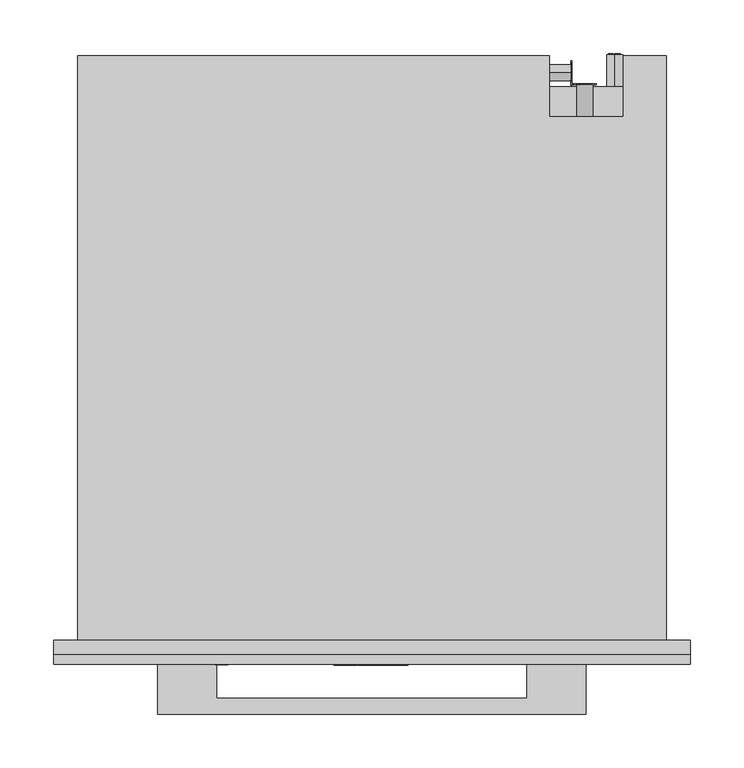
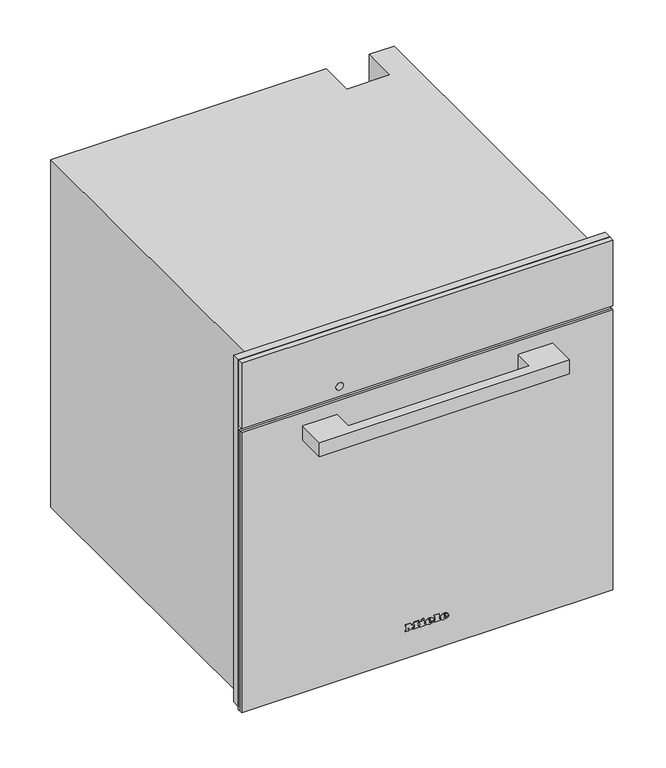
"""IFC4 building model written with IfcOpenShell, lengths in millimetres: proxy geometry, 12091920_NER_DGC7865HCPro_GRGR : 23786539_NER_12091920_DGC7865HCPro_GRGR."""

from ifc_helpers import new_model, si_unit, point, frame, frame_2d, origin, place, context, project, spatial, polyline, circle_curve, ellipse_curve, trimmed, segment, composite_curve, outline, extrude, faceted_brep, source, transform, mapped, element, save
from ifc_brep_helpers import plane_surface, cylinder_surface, revolved_surface, extruded_surface, advanced_brep


def specialty_equipment_4556620d(model_context):
    return source(origin(), model_context, "Body", "SolidModel", [
        extrude(outline(polyline([(596.0, 297.5), (596.0, -297.5), (9.0, -297.5), (9.0, 297.5), (596.0, 297.5)]), holes=[polyline([(485.0, -272.5), (485.0, 272.5), (27.0, 272.5), (27.0, -272.5), (485.0, -272.5)])]), frame((0.0, -13.0, 0.0), z_axis=(0.0, 1.0, 0.0), x_axis=(0.0, 0.0, 1.0)), (0.0, 0.0, 1.0), 13.0),
        extrude(outline(polyline([(523.0, 196.9217896), (523.0, 198.4267862), (533.0435673, 201.1942402), (533.0435673, 199.9014806), (524.4295103, 197.7797951), (533.0470645, 195.3087512), (533.0470645, 193.4373937), (524.4121052, 190.9191482), (533.0472266, 188.8443938), (533.0472266, 187.5376524), (523.0, 190.2769667), (523.0, 191.6257455), (531.8347238, 194.3884733), (523.0, 196.9217896)])), frame((0.0, 519.0, 0.0), z_axis=(0.0, 1.0, 0.0), x_axis=(0.0, 0.0, 1.0)), (0.0, 0.0, 1.0), 1.0),
        extrude(outline(polyline([(533.0468463, 209.521488), (533.0468463, 208.2566067), (528.129594, 208.2566067), (533.0474898, 203.1074328), (533.0474898, 201.3597489), (528.9313111, 205.6695027), (523.0, 201.1858157), (523.0, 202.7358731), (528.0700777, 206.5685235), (526.4282746, 208.2823622), (523.0, 208.2823622), (523.0, 209.521488), (533.0468463, 209.521488)])), frame((0.0, 519.0, 0.0), z_axis=(0.0, 1.0, 0.0), x_axis=(0.0, 0.0, 1.0)), (0.0, 0.0, 1.0), 1.0),
        extrude(outline(polyline([(518.3136153, 20.0), (522.323529, 30.045631), (523.3928394, 30.045631), (527.4027531, 20.0), (526.0759254, 20.0), (524.925681, 23.1392597), (520.7882348, 23.1392597), (519.640443, 20.0), (518.3136153, 20.0)]), holes=[polyline([(521.2493136, 24.3949636), (524.4670548, 24.3949636), (523.5620651, 26.864678), (522.8581842, 28.7899271), (522.2327848, 27.0805021), (521.2493136, 24.3949636)])]), frame((186.0, 0.0, 0.0), z_axis=(1.0, 0.0, 0.0), x_axis=(0.0, 1.0, 0.0)), (0.0, 0.0, 1.0), 1.0),
        extrude(outline(polyline([(530.5420128, 20.0), (527.8025182, 30.045631), (529.0974628, 30.045631), (530.6867131, 23.4433755), (531.1772224, 21.4053092), (531.7020674, 23.207931), (533.6935352, 30.045631), (535.5599232, 30.045631), (537.0069257, 25.0890343), (538.0835937, 21.4053092), (538.5593878, 23.3845144), (540.1633533, 30.045631), (541.4582979, 30.045631), (538.7163507, 20.0), (537.3748077, 20.0), (534.9664069, 27.7500474), (534.630408, 28.8316204), (534.2527159, 27.5293182), (532.0576866, 20.0), (530.5420128, 20.0)])), frame((186.0, 0.0, 0.0), z_axis=(1.0, 0.0, 0.0), x_axis=(0.0, 1.0, 0.0)), (0.0, 0.0, 1.0), 1.0),
        advanced_brep(
        [(227.0, 547.0, 396.5), (227.0, 547.0, 381.5), (221.4098301, 547.0, 384.0), (225.5, 547.0, 384.0), (225.5, 547.0, 394.0), (224.4955303, 547.0, 394.0), (224.4955303, 547.0, 385.0), (221.0315043, 547.0, 385.0), (221.0315043, 547.0, 384.4582978), (232.0, 547.0, 384.0), (232.0, 547.0, 394.0), (227.0, 547.0, 394.0), (227.0, 547.0, 393.0), (231.0, 547.0, 393.0), (231.0, 547.0, 389.5), (228.0, 547.0, 389.5), (228.0, 547.0, 388.5), (231.0, 547.0, 388.5), (231.0, 547.0, 385.0), (227.0, 547.0, 385.0), (227.0, 547.0, 384.0), (227.0, 517.0, 381.5), (227.0, 517.0, 396.5), (232.0, 548.0, 394.0), (232.0, 548.0, 384.0), (227.0, 548.0, 384.0), (227.0, 548.0, 385.0), (231.0, 548.0, 385.0), (231.0, 548.0, 388.5), (228.0, 548.0, 388.5), (228.0, 548.0, 389.5), (231.0, 548.0, 389.5), (231.0, 548.0, 393.0), (227.0, 548.0, 393.0), (227.0, 548.0, 394.0), (225.5, 548.0, 384.0), (221.0315043, 548.0, 384.0), (221.0315043, 548.0, 385.0), (224.4955303, 548.0, 385.0), (224.4955303, 548.0, 394.0), (225.5, 548.0, 394.0), (221.0315043, 547.0, 384.0)],
        [
            (0, 1, circle_curve(frame((227.0, 547.0, 389.0), z_axis=(0.0, 1.0, 0.0), x_axis=(0.0, 0.0, 1.0)), 7.5)),
            (1, 2, circle_curve(frame((227.0, 547.0, 389.0), z_axis=(0.0, 1.0, 0.0), x_axis=(0.0, 0.0, 1.0)), 7.5)),
            (2, 3),
            (3, 4),
            (4, 5),
            (5, 6),
            (6, 7),
            (7, 8),
            (8, 0, circle_curve(frame((227.0, 547.0, 389.0), z_axis=(0.0, 1.0, 0.0), x_axis=(0.0, 0.0, 1.0)), 7.5)),
            (9, 10),
            (10, 11),
            (11, 12),
            (12, 13),
            (13, 14),
            (14, 15),
            (15, 16),
            (16, 17),
            (17, 18),
            (18, 19),
            (19, 20),
            (20, 9),
            (21, 22, circle_curve(frame((227.0, 517.0, 389.0), z_axis=(0.0, -1.0, 0.0), x_axis=(0.0, 0.0, 1.0)), 7.5)),
            (22, 21, circle_curve(frame((227.0, 517.0, 389.0), z_axis=(0.0, -1.0, 0.0), x_axis=(0.0, 0.0, 1.0)), 7.5)),
            (0, 22),
            (21, 1),
            (8, 2, circle_curve(frame((227.0, 547.0, 389.0), z_axis=(0.0, -1.0, 0.0), x_axis=(0.0, 0.0, 1.0)), 7.5)),
            (23, 24),
            (24, 25),
            (25, 26),
            (26, 27),
            (27, 28),
            (28, 29),
            (29, 30),
            (30, 31),
            (31, 32),
            (32, 33),
            (33, 34),
            (34, 23),
            (35, 36),
            (36, 37),
            (37, 38),
            (38, 39),
            (39, 40),
            (40, 35),
            (8, 41),
            (41, 2),
            (23, 10),
            (9, 24),
            (20, 25),
            (19, 26),
            (18, 27),
            (17, 28),
            (16, 29),
            (15, 30),
            (14, 31),
            (13, 32),
            (12, 33),
            (11, 34),
            (35, 3),
            (41, 36),
            (7, 37),
            (6, 38),
            (5, 39),
            (4, 40),
        ],
        [
            plane_surface(frame((227.0, 547.0, 396.5), z_axis=(0.0, 1.0, 0.0), x_axis=(1.0, 0.0, 0.0))),
            plane_surface(frame((227.0, 517.0, 396.5), z_axis=(0.0, -1.0, 0.0), x_axis=(-1.0, 0.0, 0.0))),
            cylinder_surface(frame((227.0, 547.0, 389.0), z_axis=(0.0, -1.0, 0.0), x_axis=(0.0, 0.0, 1.0)), 7.5),
            plane_surface(frame((232.0, 548.0, 394.0), z_axis=(0.0, 1.0, 0.0), x_axis=(0.0, 0.0, -1.0))),
            plane_surface(frame((232.0, 547.0, 394.0), z_axis=(0.0, -1.0, 0.0), x_axis=(0.0, 0.0, 1.0))),
            plane_surface(frame((232.0, 548.0, 394.0), z_axis=(1.0, 0.0, 0.0), x_axis=(0.0, -1.0, 0.0))),
            plane_surface(frame((232.0, 548.0, 384.0), z_axis=(0.0, 0.0, -1.0), x_axis=(0.0, -1.0, 0.0))),
            plane_surface(frame((227.0, 548.0, 384.0), z_axis=(-1.0, 0.0, 0.0), x_axis=(0.0, -1.0, 0.0))),
            plane_surface(frame((227.0, 548.0, 385.0), z_axis=(0.0, 0.0, 1.0), x_axis=(0.0, -1.0, 0.0))),
            plane_surface(frame((231.0, 548.0, 385.0), z_axis=(-1.0, 0.0, 0.0), x_axis=(0.0, -1.0, 0.0))),
            plane_surface(frame((231.0, 548.0, 388.5), z_axis=(0.0, 0.0, -1.0), x_axis=(0.0, -1.0, 0.0))),
            plane_surface(frame((228.0, 548.0, 388.5), z_axis=(-1.0, 0.0, 0.0), x_axis=(0.0, -1.0, 0.0))),
            plane_surface(frame((228.0, 548.0, 389.5), z_axis=(0.0, 0.0, 1.0), x_axis=(0.0, -1.0, 0.0))),
            plane_surface(frame((231.0, 548.0, 389.5), z_axis=(-1.0, 0.0, 0.0), x_axis=(0.0, -1.0, 0.0))),
            plane_surface(frame((231.0, 548.0, 393.0), z_axis=(0.0, 0.0, -1.0), x_axis=(0.0, -1.0, 0.0))),
            plane_surface(frame((227.0, 548.0, 393.0), z_axis=(-1.0, 0.0, 0.0), x_axis=(0.0, -1.0, 0.0))),
            plane_surface(frame((227.0, 548.0, 394.0), z_axis=(0.0, 0.0, 1.0), x_axis=(0.0, -1.0, 0.0))),
            plane_surface(frame((225.5, 548.0, 384.0), z_axis=(0.0, 0.0, -1.0), x_axis=(0.0, -1.0, 0.0))),
            plane_surface(frame((221.0315043, 548.0, 384.0), z_axis=(-1.0, 0.0, 0.0), x_axis=(0.0, -1.0, 0.0))),
            plane_surface(frame((221.0315043, 548.0, 385.0), z_axis=(0.0, 0.0, 1.0), x_axis=(0.0, -1.0, 0.0))),
            plane_surface(frame((224.4955303, 548.0, 385.0), z_axis=(-1.0, 0.0, 0.0), x_axis=(0.0, -1.0, 0.0))),
            plane_surface(frame((224.4955303, 548.0, 394.0), z_axis=(0.0, 0.0, 1.0), x_axis=(0.0, -1.0, 0.0))),
            plane_surface(frame((225.5, 548.0, 394.0), z_axis=(1.0, 0.0, 0.0), x_axis=(0.0, -1.0, 0.0))),
        ],
        [
            (0, [[1, 2, 3, 4, 5, 6, 7, 8, 9], [10, 11, 12, 13, 14, 15, 16, 17, 18, 19, 20, 21]]),
            (1, [[22, 23]]),
            (2, [[-1, 24, -22, 25]]),
            (2, [[-23, -24, -9, 26, -2, -25]]),
            (3, [[27, 28, 29, 30, 31, 32, 33, 34, 35, 36, 37, 38]]),
            (3, [[39, 40, 41, 42, 43, 44]]),
            (4, [[45, 46, -26]]),
            (5, [[-27, 47, -10, 48]]),
            (6, [[-28, -48, -21, 49]]),
            (7, [[-29, -49, -20, 50]]),
            (8, [[-30, -50, -19, 51]]),
            (9, [[-31, -51, -18, 52]]),
            (10, [[-32, -52, -17, 53]]),
            (11, [[-33, -53, -16, 54]]),
            (12, [[-34, -54, -15, 55]]),
            (13, [[-35, -55, -14, 56]]),
            (14, [[-36, -56, -13, 57]]),
            (15, [[-37, -57, -12, 58]]),
            (16, [[-38, -58, -11, -47]]),
            (17, [[-39, 59, -3, -46, 60]]),
            (18, [[-40, -60, -45, -8, 61]]),
            (19, [[-41, -61, -7, 62]]),
            (20, [[-42, -62, -6, 63]]),
            (21, [[-43, -63, -5, 64]]),
            (22, [[-44, -64, -4, -59]]),
        ],
    ),
        extrude(outline(composite_curve([segment(trimmed(circle_curve(frame_2d((528.0, 199.0)), 7.5), [point((528.0, 206.5))], [point((528.0, 191.5))], False, "CARTESIAN"), True, "CONTINUOUS"), segment(trimmed(circle_curve(frame_2d((528.0, 199.0)), 7.5), [point((528.0, 191.5))], [point((528.0, 206.5))], False, "CARTESIAN"), True, "CONTINUOUS")], self_intersect=False)), frame((0.0, 489.0, 0.0), z_axis=(0.0, 1.0, 0.0), x_axis=(0.0, 0.0, 1.0)), (0.0, 0.0, 1.0), 30.0),
        extrude(outline(composite_curve([segment(trimmed(circle_curve(frame_2d((530.0, 25.0)), 7.5), [point((530.0, 17.5))], [point((530.0, 32.5))], False, "CARTESIAN"), True, "CONTINUOUS"), segment(trimmed(circle_curve(frame_2d((530.0, 25.0)), 7.5), [point((530.0, 32.5))], [point((530.0, 17.5))], False, "CARTESIAN"), True, "CONTINUOUS")], self_intersect=False)), frame((166.0, 0.0, 0.0), z_axis=(1.0, 0.0, 0.0), x_axis=(0.0, 1.0, 0.0)), (0.0, 0.0, 1.0), 20.0),
        faceted_brep([(-275.0, 546.0, 0.0), (-275.0, 546.0, 588.0), (166.0, 546.0, 588.0), (166.0, 546.0, 0.0), (235.0, 546.0, 588.0), (275.0, 546.0, 588.0), (275.0, 546.0, 478.0), (235.0, 546.0, 478.0), (275.0, 0.0, 588.0), (-275.0, 0.0, 588.0), (-275.0, 0.0, 0.0), (275.0, 0.0, 0.0), (-272.5, 0.0, 485.0), (272.5, 0.0, 485.0), (272.5, 0.0, 27.0), (-272.5, 0.0, 27.0), (235.0, 489.0, 588.0), (166.0, 489.0, 588.0), (166.0, 517.0, 0.0), (275.0, 517.0, 0.0), (275.0, 517.0, 478.0), (272.5, 17.0, 485.0), (-272.5, 17.0, 485.0), (-272.5, 17.0, 27.0), (272.5, 17.0, 27.0), (231.0, 17.0, 409.0), (231.0, 17.0, 61.0), (-231.0, 17.0, 61.0), (-231.0, 17.0, 409.0), (231.0, 411.0, 409.0), (-231.0, 411.0, 409.0), (-231.0, 411.0, 61.0), (231.0, 411.0, 61.0), (235.0, 489.0, 477.0), (166.0, 489.0, 477.0), (166.0, 517.0, 477.0), (235.0, 517.0, 477.0), (235.0, 517.0, 478.0)], [[[0, 1, 2, 3]], [[4, 5, 6, 7]], [[8, 9, 10, 11], [12, 13, 14, 15]], [[9, 8, 5, 4, 16, 17, 2, 1]], [[1, 0, 10, 9]], [[11, 10, 0, 3, 18, 19]], [[8, 11, 19, 20, 6, 5]], [[21, 22, 23, 24], [25, 26, 27, 28]], [[22, 21, 13, 12]], [[23, 22, 12, 15]], [[24, 23, 15, 14]], [[21, 24, 14, 13]], [[29, 30, 31, 32]], [[29, 32, 26, 25]], [[32, 31, 27, 26]], [[31, 30, 28, 27]], [[30, 29, 25, 28]], [[16, 33, 34, 17]], [[17, 34, 35, 18, 3, 2]], [[34, 33, 36, 35]], [[33, 16, 4, 7, 37, 36]], [[37, 20, 19, 18, 35, 36]], [[20, 37, 7, 6]]]),
        advanced_brep(
        [(26.2998, -23.0, 52.7018), (26.2998, -23.0, 53.8532), (33.9264, -23.0, 53.8532), (20.6568, -23.0, 53.8532), (23.7918, -23.0, 50.0), (33.7326, -23.0, 52.7018), (30.2898, -23.0, 52.7018), (27.5766, -23.0, 51.425), (26.2998, -23.0, 55.3124), (26.2998, -23.0, 56.555), (28.2492, -23.0, 56.555), (28.2492, -23.0, 55.3124), (26.2998, -22.0, 52.7018), (27.5766, -22.0, 51.425), (30.2898, -22.0, 52.7018), (33.7326, -22.0, 52.7018), (23.7918, -22.0, 50.0), (20.6568, -22.0, 53.8532), (33.9264, -22.0, 53.8532), (26.2998, -22.0, 53.8532), (26.2998, -22.0, 55.3124), (28.2492, -22.0, 55.3124), (28.2492, -22.0, 56.555), (26.2998, -22.0, 56.555)],
        [
            (0, 1),
            (1, 2),
            (2, 3, ellipse_curve(frame((27.2916, -23.0, 53.8532), z_axis=(0.0, -1.0, 0.0), x_axis=(-1.0, 0.0, 0.0)), 6.6348, 5.4834)),
            (3, 4, circle_curve(frame((25.0686622, -23.0, 54.2408), z_axis=(0.0, -1.0, 0.0), x_axis=(0.0, 0.0, -1.0)), 4.4288556)),
            (4, 5, circle_curve(frame((27.1587808, -23.0, 57.2504), z_axis=(0.0, -1.0, 0.0), x_axis=(0.0, 0.0, -1.0)), 7.9940516)),
            (5, 6),
            (6, 7, circle_curve(frame((28.1338588, -23.0, 53.762), z_axis=(0.0, 1.0, 0.0), x_axis=(0.0, 0.0, -1.0)), 2.4025208)),
            (7, 0, circle_curve(frame((27.5766, -23.0, 52.7018), z_axis=(0.0, 1.0, 0.0), x_axis=(0.0, 0.0, -1.0)), 1.2768)),
            (8, 9),
            (9, 10, circle_curve(frame((27.2745, -23.0, 56.555), z_axis=(0.0, 1.0, 0.0), x_axis=(0.0, 0.0, -1.0)), 0.9747)),
            (10, 11),
            (11, 8),
            (12, 13, circle_curve(frame((27.5766, -22.0, 52.7018), z_axis=(0.0, -1.0, 0.0), x_axis=(0.0, 0.0, -1.0)), 1.2768)),
            (13, 14, circle_curve(frame((28.1338588, -22.0, 53.762), z_axis=(0.0, -1.0, 0.0), x_axis=(0.0, 0.0, -1.0)), 2.4025208)),
            (14, 15),
            (15, 16, circle_curve(frame((27.1587808, -22.0, 57.2504), z_axis=(0.0, 1.0, 0.0), x_axis=(0.0, 0.0, -1.0)), 7.9940516)),
            (16, 17, circle_curve(frame((25.0686622, -22.0, 54.2408), z_axis=(0.0, 1.0, 0.0), x_axis=(0.0, 0.0, -1.0)), 4.4288556)),
            (17, 18, ellipse_curve(frame((27.2916, -22.0, 53.8532), z_axis=(0.0, 1.0, 0.0), x_axis=(-1.0, 0.0, 0.0)), 6.6348, 5.4834)),
            (18, 19),
            (19, 12),
            (20, 21),
            (21, 22),
            (22, 23, circle_curve(frame((27.2745, -22.0, 56.555), z_axis=(0.0, -1.0, 0.0), x_axis=(0.0, 0.0, -1.0)), 0.9747)),
            (23, 20),
            (0, 12),
            (19, 1),
            (18, 2),
            (5, 15),
            (14, 6),
            (17, 3),
            (13, 7),
            (16, 4),
            (8, 20),
            (23, 9),
            (22, 10),
            (21, 11),
        ],
        [
            plane_surface(frame((26.2998, -23.0, 53.8532), z_axis=(0.0, -1.0, 0.0), x_axis=(0.0, 0.0, 1.0))),
            plane_surface(frame((26.2998, -22.0, 53.8532), z_axis=(0.0, 1.0, 0.0), x_axis=(0.0, 0.0, -1.0))),
            plane_surface(frame((26.2998, -23.0, 52.7018), z_axis=(1.0, 0.0, 0.0), x_axis=(0.0, 1.0, 0.0))),
            plane_surface(frame((26.2998, -23.0, 53.8532), z_axis=(0.0, 0.0, -1.0), x_axis=(0.0, 1.0, 0.0))),
            plane_surface(frame((33.7326, -23.0, 52.7018), z_axis=(0.0, 0.0, 1.0), x_axis=(0.0, 1.0, 0.0))),
            extruded_surface(trimmed(ellipse_curve(frame((27.2916, -21.0, 53.8532), z_axis=(0.0, -1.0, 0.0), x_axis=(-1.0, 0.0, 0.0)), 6.6348, 5.4834), [point((33.9264, -21.0, 53.8532))], [point((20.6568, -21.0, 53.8532))], True, "CARTESIAN"), (0.0, -1.0, 0.0), 1.0),
            revolved_surface(polyline([(28.1338588, -22.0, 51.3594792), (28.1338588, -23.0, 51.3594792)]), (28.1338588, -22.0, 53.762), (0.0, 1.0, 0.0)),
            revolved_surface(polyline([(27.5766, -22.0, 51.425), (27.5766, -23.0, 51.425)]), (27.5766, -22.0, 52.7018), (0.0, 1.0, 0.0)),
            cylinder_surface(frame((25.0686622, -22.0, 54.2408), z_axis=(0.0, -1.0, 0.0), x_axis=(0.0, 0.0, -1.0)), 4.4288556),
            cylinder_surface(frame((27.1587808, -22.0, 57.2504), z_axis=(0.0, -1.0, 0.0), x_axis=(0.0, 0.0, -1.0)), 7.9940516),
            plane_surface(frame((26.2998, -23.0, 55.3124), z_axis=(1.0, 0.0, 0.0), x_axis=(0.0, 1.0, 0.0))),
            revolved_surface(polyline([(27.2745, -22.0, 55.5803), (27.2745, -23.0, 55.5803)]), (27.2745, -22.0, 56.555), (0.0, 1.0, 0.0)),
            plane_surface(frame((28.2492, -23.0, 56.555), z_axis=(-1.0, 0.0, 0.0), x_axis=(0.0, 1.0, 0.0))),
            plane_surface(frame((28.2492, -23.0, 55.3124), z_axis=(0.0, 0.0, 1.0), x_axis=(0.0, 1.0, 0.0))),
        ],
        [
            (0, [[1, 2, 3, 4, 5, 6, 7, 8], [9, 10, 11, 12]]),
            (1, [[13, 14, 15, 16, 17, 18, 19, 20], [21, 22, 23, 24]]),
            (2, [[-1, 25, -20, 26]]),
            (3, [[-2, -26, -19, 27]]),
            (4, [[-6, 28, -15, 29]]),
            (5, [[-3, -27, -18, 30]]),
            (6, [[-7, -29, -14, 31]]),
            (7, [[-8, -31, -13, -25]]),
            (8, [[-4, -30, -17, 32]]),
            (9, [[-5, -32, -16, -28]]),
            (10, [[-9, 33, -24, 34]]),
            (11, [[-10, -34, -23, 35]]),
            (12, [[-11, -35, -22, 36]]),
            (13, [[-12, -36, -21, -33]]),
        ],
    ),
        advanced_brep(
        [(2.508, -23.0, 52.7018), (2.508, -23.0, 53.8532), (10.1346, -23.0, 53.8532), (-3.135, -23.0, 53.8532), (0.0, -23.0, 50.0), (9.9408, -23.0, 52.7018), (6.498, -23.0, 52.7018), (3.7848, -23.0, 51.425), (2.508, -23.0, 55.3124), (2.508, -23.0, 56.555), (4.4574, -23.0, 56.555), (4.4574, -23.0, 55.3124), (2.508, -22.0, 52.7018), (3.7848, -22.0, 51.425), (6.498, -22.0, 52.7018), (9.9408, -22.0, 52.7018), (0.0, -22.0, 50.0), (-3.135, -22.0, 53.8532), (10.1346, -22.0, 53.8532), (2.508, -22.0, 53.8532), (2.508, -22.0, 55.3124), (4.4574, -22.0, 55.3124), (4.4574, -22.0, 56.555), (2.508, -22.0, 56.555)],
        [
            (0, 1),
            (1, 2),
            (2, 3, ellipse_curve(frame((3.4998, -23.0, 53.8532), z_axis=(0.0, -1.0, 0.0), x_axis=(-1.0, 0.0, 0.0)), 6.6348, 5.4834)),
            (3, 4, circle_curve(frame((1.2768622, -23.0, 54.2408), z_axis=(0.0, -1.0, 0.0), x_axis=(0.0, 0.0, -1.0)), 4.4288556)),
            (4, 5, circle_curve(frame((3.3669808, -23.0, 57.2504), z_axis=(0.0, -1.0, 0.0), x_axis=(0.0, 0.0, -1.0)), 7.9940516)),
            (5, 6),
            (6, 7, circle_curve(frame((4.3420588, -23.0, 53.762), z_axis=(0.0, 1.0, 0.0), x_axis=(0.0, 0.0, -1.0)), 2.4025208)),
            (7, 0, circle_curve(frame((3.7848, -23.0, 52.7018), z_axis=(0.0, 1.0, 0.0), x_axis=(0.0, 0.0, -1.0)), 1.2768)),
            (8, 9),
            (9, 10, circle_curve(frame((3.4827, -23.0, 56.555), z_axis=(0.0, 1.0, 0.0), x_axis=(0.0, 0.0, -1.0)), 0.9747)),
            (10, 11),
            (11, 8),
            (12, 13, circle_curve(frame((3.7848, -22.0, 52.7018), z_axis=(0.0, -1.0, 0.0), x_axis=(0.0, 0.0, -1.0)), 1.2768)),
            (13, 14, circle_curve(frame((4.3420588, -22.0, 53.762), z_axis=(0.0, -1.0, 0.0), x_axis=(0.0, 0.0, -1.0)), 2.4025208)),
            (14, 15),
            (15, 16, circle_curve(frame((3.3669808, -22.0, 57.2504), z_axis=(0.0, 1.0, 0.0), x_axis=(0.0, 0.0, -1.0)), 7.9940516)),
            (16, 17, circle_curve(frame((1.2768622, -22.0, 54.2408), z_axis=(0.0, 1.0, 0.0), x_axis=(0.0, 0.0, -1.0)), 4.4288556)),
            (17, 18, ellipse_curve(frame((3.4998, -22.0, 53.8532), z_axis=(0.0, 1.0, 0.0), x_axis=(-1.0, 0.0, 0.0)), 6.6348, 5.4834)),
            (18, 19),
            (19, 12),
            (20, 21),
            (21, 22),
            (22, 23, circle_curve(frame((3.4827, -22.0, 56.555), z_axis=(0.0, -1.0, 0.0), x_axis=(0.0, 0.0, -1.0)), 0.9747)),
            (23, 20),
            (0, 12),
            (19, 1),
            (18, 2),
            (5, 15),
            (14, 6),
            (17, 3),
            (13, 7),
            (16, 4),
            (8, 20),
            (23, 9),
            (22, 10),
            (21, 11),
        ],
        [
            plane_surface(frame((2.508, -23.0, 53.8532), z_axis=(0.0, -1.0, 0.0), x_axis=(0.0, 0.0, 1.0))),
            plane_surface(frame((2.508, -22.0, 53.8532), z_axis=(0.0, 1.0, 0.0), x_axis=(0.0, 0.0, -1.0))),
            plane_surface(frame((2.508, -23.0, 52.7018), z_axis=(1.0, 0.0, 0.0), x_axis=(0.0, 1.0, 0.0))),
            plane_surface(frame((2.508, -23.0, 53.8532), z_axis=(0.0, 0.0, -1.0), x_axis=(0.0, 1.0, 0.0))),
            plane_surface(frame((9.9408, -23.0, 52.7018), z_axis=(0.0, 0.0, 1.0), x_axis=(0.0, 1.0, 0.0))),
            extruded_surface(trimmed(ellipse_curve(frame((3.4998, -21.0, 53.8532), z_axis=(0.0, -1.0, 0.0), x_axis=(-1.0, 0.0, 0.0)), 6.6348, 5.4834), [point((10.1346, -21.0, 53.8532))], [point((-3.135, -21.0, 53.8532))], True, "CARTESIAN"), (0.0, -1.0, 0.0), 1.0),
            revolved_surface(polyline([(4.3420588, -22.0, 51.3594792), (4.3420588, -23.0, 51.3594792)]), (4.3420588, -22.0, 53.762), (0.0, 1.0, 0.0)),
            revolved_surface(polyline([(3.7848, -22.0, 51.425), (3.7848, -23.0, 51.425)]), (3.7848, -22.0, 52.7018), (0.0, 1.0, 0.0)),
            cylinder_surface(frame((1.2768622, -22.0, 54.2408), z_axis=(0.0, -1.0, 0.0), x_axis=(0.0, 0.0, -1.0)), 4.4288556),
            cylinder_surface(frame((3.3669808, -22.0, 57.2504), z_axis=(0.0, -1.0, 0.0), x_axis=(0.0, 0.0, -1.0)), 7.9940516),
            plane_surface(frame((2.508, -23.0, 55.3124), z_axis=(1.0, 0.0, 0.0), x_axis=(0.0, 1.0, 0.0))),
            revolved_surface(polyline([(3.4827, -22.0, 55.5803), (3.4827, -23.0, 55.5803)]), (3.4827, -22.0, 56.555), (0.0, 1.0, 0.0)),
            plane_surface(frame((4.4574, -23.0, 56.555), z_axis=(-1.0, 0.0, 0.0), x_axis=(0.0, 1.0, 0.0))),
            plane_surface(frame((4.4574, -23.0, 55.3124), z_axis=(0.0, 0.0, 1.0), x_axis=(0.0, 1.0, 0.0))),
        ],
        [
            (0, [[1, 2, 3, 4, 5, 6, 7, 8], [9, 10, 11, 12]]),
            (1, [[13, 14, 15, 16, 17, 18, 19, 20], [21, 22, 23, 24]]),
            (2, [[-1, 25, -20, 26]]),
            (3, [[-2, -26, -19, 27]]),
            (4, [[-6, 28, -15, 29]]),
            (5, [[-3, -27, -18, 30]]),
            (6, [[-7, -29, -14, 31]]),
            (7, [[-8, -31, -13, -25]]),
            (8, [[-4, -30, -17, 32]]),
            (9, [[-5, -32, -16, -28]]),
            (10, [[-9, 33, -24, 34]]),
            (11, [[-10, -34, -23, 35]]),
            (12, [[-11, -35, -22, 36]]),
            (13, [[-12, -36, -21, -33]]),
        ],
    ),
        extrude(outline(polyline([(60.7274, -9.9522), (58.8806, -9.0858), (60.6818, -5.2212), (62.5286, -6.0762), (60.7274, -9.9522)])), frame((0.0, -23.0, 0.0), z_axis=(0.0, 1.0, 0.0), x_axis=(0.0, 0.0, 1.0)), (0.0, 0.0, 1.0), 1.0),
        extrude(outline(polyline([(58.6298, -12.768), (56.5892, -12.768), (56.5892, -11.4114), (51.9152, -11.4114), (51.9152, -12.768), (50.0, -12.768), (50.0, -3.7734), (51.9152, -3.7734), (51.9152, -5.0958), (58.6298, -5.0958), (58.6298, -12.768)])), frame((0.0, -23.0, 0.0), z_axis=(0.0, 1.0, 0.0), x_axis=(0.0, 0.0, 1.0)), (0.0, 0.0, 1.0), 1.0),
        extrude(outline(polyline([(59.5418, 10.773), (59.5418, 12.141), (51.9152, 12.141), (51.9152, 10.773), (50.0, 10.773), (50.0, 20.0184), (51.9152, 20.0184), (51.9152, 18.6162), (61.4, 18.6162), (61.4, 10.773), (59.5418, 10.773)])), frame((0.0, -23.0, 0.0), z_axis=(0.0, 1.0, 0.0), x_axis=(0.0, 0.0, 1.0)), (0.0, 0.0, 1.0), 1.0),
        extrude(outline(polyline([(59.5418, -35.4882), (59.5418, -34.1088), (51.9152, -34.1088), (51.9152, -35.4882), (50.0, -35.4882), (50.0, -30.4722), (51.9152, -30.4722), (51.9152, -31.8402), (56.7429247, -31.8402), (50.0, -26.7444), (56.9402223, -21.6258), (51.9152, -21.6258), (51.9152, -23.028), (50.0, -23.028), (50.0, -13.9308), (51.9152, -13.9308), (51.9152, -15.3786), (59.5418, -15.3786), (59.5418, -13.9308), (61.4, -13.9308), (61.4, -20.8734), (57.125, -24.2022), (61.4, -27.5424), (61.4, -35.4882), (59.5418, -35.4882)])), frame((0.0, -23.0, 0.0), z_axis=(0.0, 1.0, 0.0), x_axis=(0.0, 0.0, 1.0)), (0.0, 0.0, 1.0), 1.0),
        extrude(outline(polyline([(297.5, -22.0), (-297.5, -22.0), (-297.5, -13.0), (297.5, -13.0), (297.5, -22.0)])), frame((0.0, 0.0, 485.0), z_axis=(0.0, 0.0, 1.0), x_axis=(1.0, 0.0, 0.0)), (0.0, 0.0, 1.0), 111.0),
        extrude(outline(composite_curve([segment(trimmed(circle_curve(frame_2d((502.0, -140.5745637)), 6.0), [point((502.0, -146.5745637))], [point((502.0, -134.5745637))], False, "CARTESIAN"), True, "CONTINUOUS"), segment(trimmed(circle_curve(frame_2d((502.0, -140.5745637)), 6.0), [point((502.0, -134.5745637))], [point((502.0, -146.5745637))], False, "CARTESIAN"), True, "CONTINUOUS")], self_intersect=False)), frame((0.0, -22.5, 0.0), z_axis=(0.0, 1.0, 0.0), x_axis=(0.0, 0.0, 1.0)), (0.0, 0.0, 1.0), 1.0),
        extrude(outline(polyline([(-297.5, -18.0), (297.5, -18.0), (297.5, -22.0), (-297.5, -22.0), (-297.5, -18.0)])), frame((0.0, 0.0, 4.0), z_axis=(0.0, 0.0, 1.0), x_axis=(1.0, 0.0, 0.0)), (0.0, 0.0, 1.0), 474.0),
        extrude(outline(polyline([(297.5, -18.0), (-297.5, -18.0), (-297.5, -13.0), (297.5, -13.0), (297.5, -18.0)])), frame((0.0, 0.0, 4.0), z_axis=(0.0, 0.0, 1.0), x_axis=(1.0, 0.0, 0.0)), (0.0, 0.0, 1.0), 474.0),
        extrude(outline(polyline([(-200.0, -69.0), (-200.0, -22.0), (-145.0, -22.0), (-145.0, -54.0), (145.0, -54.0), (145.0, -22.0), (200.0, -22.0), (200.0, -69.0), (-200.0, -69.0)])), frame((0.0, 0.0, 432.0), z_axis=(0.0, 0.0, 1.0), x_axis=(1.0, 0.0, 0.0)), (0.0, 0.0, 1.0), 24.0),
    ])


if __name__ == "__main__":
    model = new_model("IFC4")
    model_context = context("Model", 3, world=origin())
    ifc_project = project(units=[si_unit("LENGTHUNIT", "METRE", prefix="MILLI")], contexts=[model_context])
    site = spatial("IfcSite", under=ifc_project)
    building = spatial("IfcBuilding", under=site)
    placement = place(None, origin())
    specialty_equipment_shape = specialty_equipment_4556620d(model_context)
    element("IfcBuildingElementProxy", 1, Name="12091920_NER_DGC7865HCPro_GRGR : 23786539_NER_12091920_DGC7865HCPro_GRGR", ObjectType="12091920_NER_DGC7865HCPro_GRGR : 23786539_NER_12091920_DGC7865HCPro_GRGR", at=placement, inside=building, context=model_context, shape_type="MappedRepresentation", body=[
        mapped(specialty_equipment_shape, transform((0.0, 0.0, 0.0), x_axis=(1.0, 0.0, 0.0), y_axis=(0.0, 1.0, 0.0), z_axis=(0.0, 0.0, 1.0))),
    ])
    save(model, "model.ifc")
